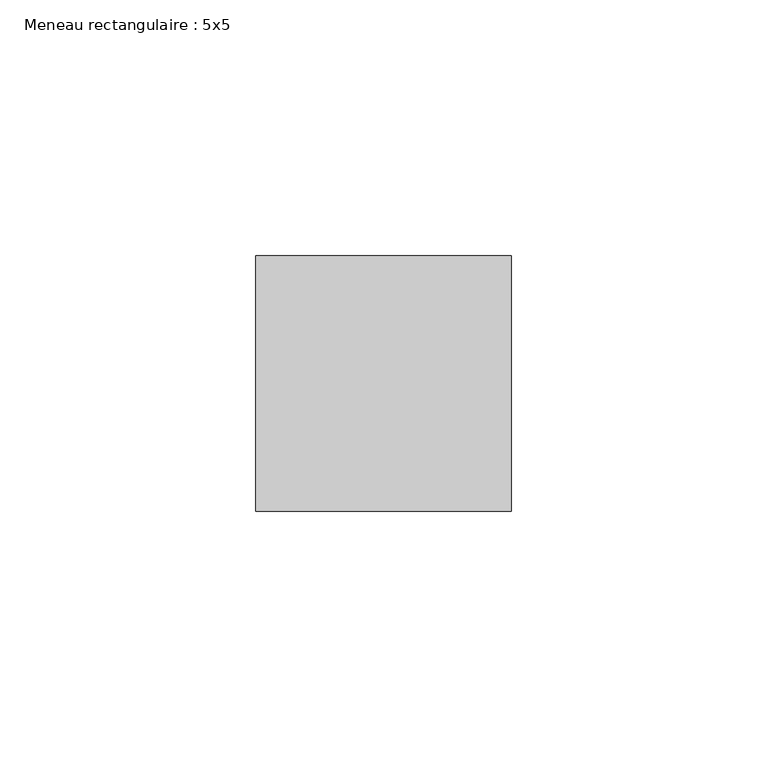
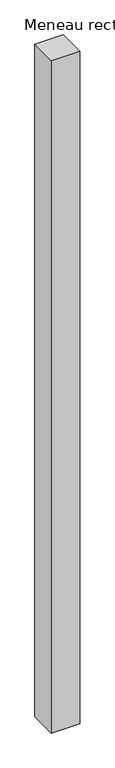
"""IFC4 building model written with IfcOpenShell, lengths in millimetres: member geometry, Meneau rectangulaire : 5x5."""

from ifc_helpers import new_model, si_unit, frame, origin, place, context, project, spatial, polyline, outline, extrude, source, transform, mapped, element, save


def meneau_rectangulaire_5x5_56e34eba(model_context):
    return source(origin(), model_context, "Body", "SweptSolid", [
        extrude(outline(polyline([(0.0, 25.0), (0.0, -25.0), (-50.0, -25.0), (-50.0, 25.0), (0.0, 25.0)])), frame((0.0, 0.0, -1250.0), z_axis=(0.0, 0.0, 1.0), x_axis=(1.0, 0.0, 0.0)), (0.0, 0.0, 1.0), 1250.0),
    ])


if __name__ == "__main__":
    model = new_model("IFC4")
    model_context = context("Model", 3, world=origin())
    ifc_project = project(units=[si_unit("LENGTHUNIT", "METRE", prefix="MILLI")], contexts=[model_context])
    site = spatial("IfcSite", under=ifc_project)
    building = spatial("IfcBuilding", under=site)
    placement = place(None, origin())
    meneau_rectangulaire_5x5_shape = meneau_rectangulaire_5x5_56e34eba(model_context)
    element("IfcMember", 1, ObjectType="Meneau rectangulaire : 5x5", at=placement, inside=building, context=model_context, shape_type="MappedRepresentation", body=[
        mapped(meneau_rectangulaire_5x5_shape, transform((0.0, 0.0, 0.0), x_axis=(1.0, 0.0, 0.0), y_axis=(0.0, 1.0, 0.0), z_axis=(0.0, 0.0, 1.0))),
    ])
    save(model, "model.ifc")
